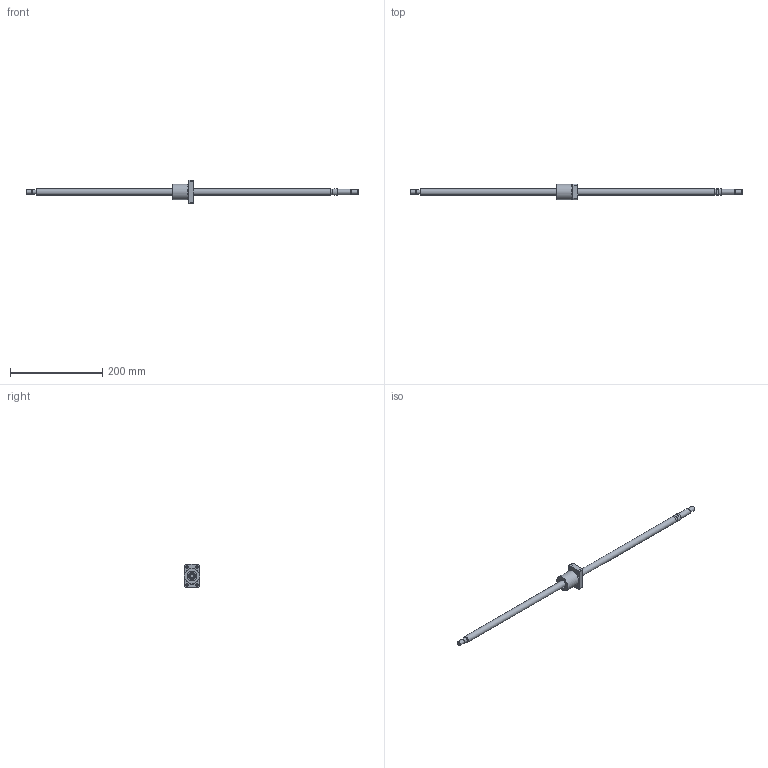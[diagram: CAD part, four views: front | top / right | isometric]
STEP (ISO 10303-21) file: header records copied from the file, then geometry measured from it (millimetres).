
FILE_DESCRIPTION(/* description */ ('STEP AP203'),/* implementation_level */ '2;1');
FILE_NAME(/* name */ 'BNK1408-2.5RRG0+721LC5Y(342.50)',/* time_stamp */ '2024-07-09T09:17:52+02:00',/* author */ ('License CC BY-ND 4.0'),/* organization */ ('CADENAS'),/* preprocessor_version */ 'ST-DEVELOPER v19.3',/* originating_system */ 'PARTsolutions',/* authorisation */ ' ');
FILE_SCHEMA (('CONFIG_CONTROL_DESIGN'));
Length unit declared in the file: millimetre
Products named in the file (3): BNK1408-2.5RRG0+721LC5Y(342.50); BNK 1408-2.5RRG0+721LC5Y Shaft; BNK 1408-2.5RRG0+721LC5YRR0 Nut
Assembly tree (2 placements, depth 2):
  BNK1408-2.5RRG0+721LC5Y(342.50)
    BNK 1408-2.5RRG0+721LC5Y Shaft
    BNK 1408-2.5RRG0+721LC5YRR0 Nut
Bounding box: 721 x 34 x 50 mm (x, y, z)
Volume: 145579 mm3; surface area: 43357.5 mm2
Topology: 2 solids, 2 shells, 74 faces, 159 edges, 102 vertices
Faces by surface type: plane 28, cylinder 27, cone 17, torus 2
Full cylindrical faces by diameter (mm): 4.917 x2, 5.5 x4, 9.5 x4, 9.6 x1, 10 x3, 12 x2, 14 x2, 15 x1, 21 x2, 33.4 x1, 34 x1
Entity records: 1940 total; most frequent: CARTESIAN_POINT 349, DIRECTION 336, ORIENTED_EDGE 242, AXIS2_PLACEMENT_3D 155, FACE_BOUND 134, EDGE_LOOP 133, EDGE_CURVE 121, VERTEX_POINT 99
